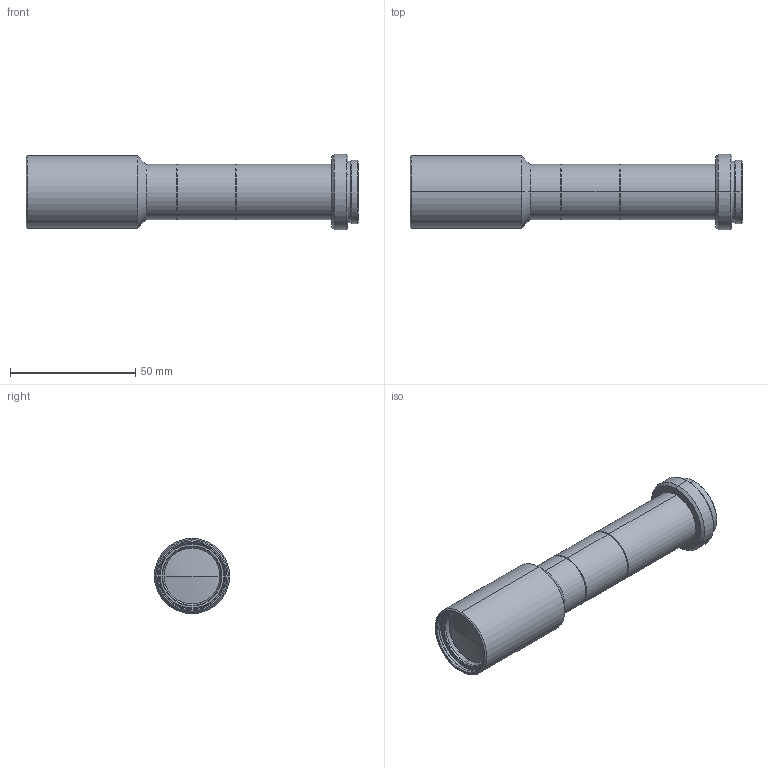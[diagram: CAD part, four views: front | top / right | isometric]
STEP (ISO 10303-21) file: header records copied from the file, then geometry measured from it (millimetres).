
FILE_DESCRIPTION (( 'STEP AP203' ), '1' );
FILE_NAME ('VS-TCH08-110.STEP', '2014-10-28T01:20:20', ( 'miura_vst' ), ( '' ), 'SwSTEP 2.0', 'SolidWorks 2014', '' );
FILE_SCHEMA (( 'CONFIG_CONTROL_DESIGN' ));
Length unit declared in the file: millimetre
Products named in the file (1): VS-TCH08-110
Bounding box: 132.5 x 30 x 30 mm (x, y, z)
Volume: 52599.6 mm3; surface area: 14987.4 mm2
Topology: 1 solids, 1 shells, 109 faces, 220 edges, 124 vertices
Faces by surface type: cone 58, cylinder 36, plane 11, sphere 4
Entity records: 2893 total; most frequent: DIRECTION 566, CARTESIAN_POINT 454, ORIENTED_EDGE 440, AXIS2_PLACEMENT_3D 236, EDGE_CURVE 220, CIRCLE 126, VERTEX_POINT 124, EDGE_LOOP 120
